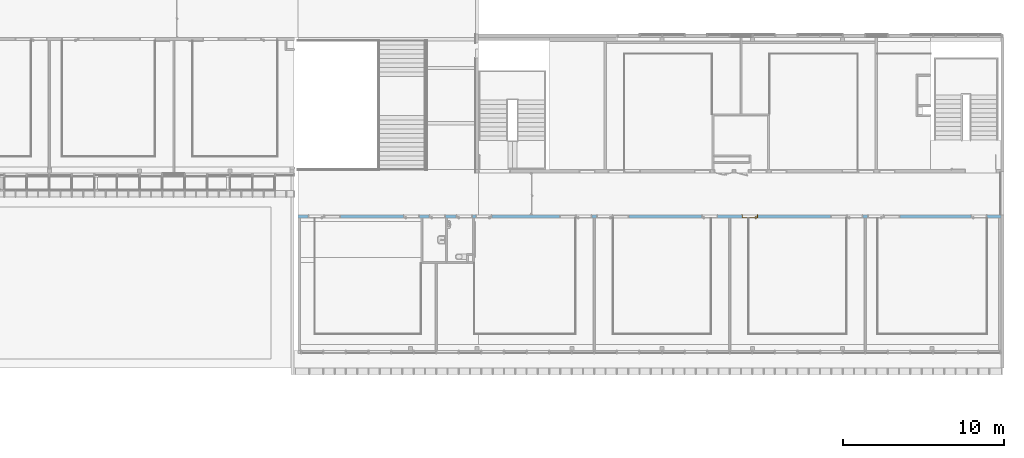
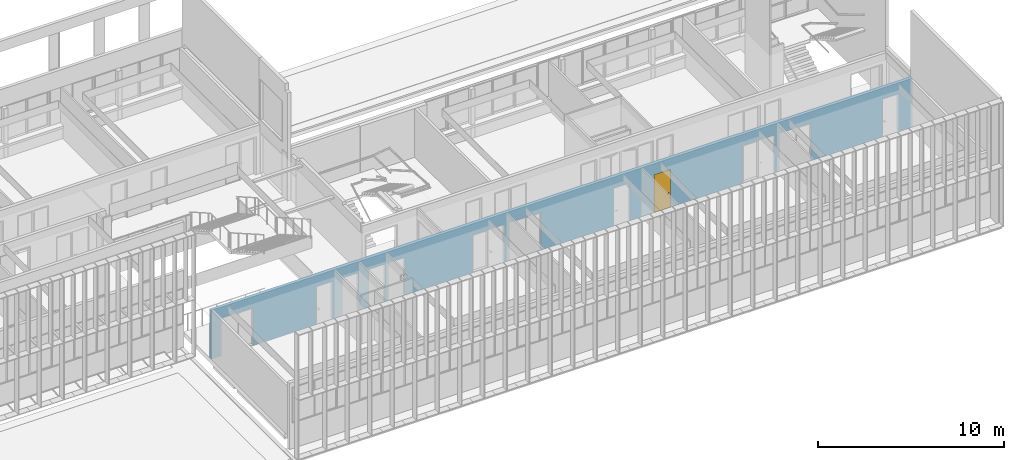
# One storey, part 69 of 106: 1 door, 18 openings, plus 1 element that does not belong to this part.
"""IFC2X3 building model written with IfcOpenShell, lengths in centimetres."""

from ifc_helpers import new_model, entity, si_unit, converted_unit, derived_unit, direction, frame, frame_2d, origin, place, context, subcontext, project, spatial, polyline, rectangle, extrude, clip, bounded_halfspace, faceted_brep, source, transform, mapped, material, material_list, layer, layer_set, layer_usage, type_object, type_shapes, element, fill, save


model = new_model("IFC2X3")

# Units and contexts
model_context = context("Model", 3, precision=0.001, world=origin(), true_north=direction((6.12303176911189e-17, 1.0)))
body_context = subcontext(model_context, "Body", "Model", "MODEL_VIEW")
ifc_project = project(units=[si_unit("LENGTHUNIT", "METRE", prefix="CENTI"), si_unit("AREAUNIT", "SQUARE_METRE"), si_unit("VOLUMEUNIT", "CUBIC_METRE"), converted_unit("PLANEANGLEUNIT", "DEGREE", entity("IfcRatioMeasure", 0.0174532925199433), si_unit("PLANEANGLEUNIT", "RADIAN"), dimensions=[0, 0, 0, 0, 0, 0, 0]), si_unit("MASSUNIT", "GRAM", prefix="KILO"), derived_unit("MASSDENSITYUNIT", [(si_unit("MASSUNIT", "GRAM", prefix="KILO"), 1), (si_unit("LENGTHUNIT", "METRE"), -3)]), si_unit("TIMEUNIT", "SECOND"), si_unit("FREQUENCYUNIT", "HERTZ"), si_unit("THERMODYNAMICTEMPERATUREUNIT", "DEGREE_CELSIUS"), derived_unit("THERMALTRANSMITTANCEUNIT", [(si_unit("MASSUNIT", "GRAM", prefix="KILO"), 1), (si_unit("THERMODYNAMICTEMPERATUREUNIT", "KELVIN"), -1), (si_unit("TIMEUNIT", "SECOND"), -3)]), derived_unit("VOLUMETRICFLOWRATEUNIT", [(si_unit("LENGTHUNIT", "METRE"), 3), (si_unit("TIMEUNIT", "SECOND"), -1)]), si_unit("ELECTRICCURRENTUNIT", "AMPERE"), si_unit("ELECTRICVOLTAGEUNIT", "VOLT"), si_unit("POWERUNIT", "WATT"), si_unit("FORCEUNIT", "NEWTON", prefix="KILO"), si_unit("ILLUMINANCEUNIT", "LUX"), si_unit("LUMINOUSFLUXUNIT", "LUMEN"), si_unit("LUMINOUSINTENSITYUNIT", "CANDELA"), derived_unit("USERDEFINED", [(si_unit("MASSUNIT", "GRAM", prefix="KILO"), -1), (si_unit("LENGTHUNIT", "METRE"), -2), (si_unit("TIMEUNIT", "SECOND"), 3), (si_unit("LUMINOUSFLUXUNIT", "LUMEN"), 1)]), derived_unit("LINEARVELOCITYUNIT", [(si_unit("LENGTHUNIT", "METRE"), 1), (si_unit("TIMEUNIT", "SECOND"), -1)]), si_unit("PRESSUREUNIT", "PASCAL"), derived_unit("USERDEFINED", [(si_unit("LENGTHUNIT", "METRE"), -2), (si_unit("MASSUNIT", "GRAM", prefix="KILO"), 1), (si_unit("TIMEUNIT", "SECOND"), -2)])], contexts=[model_context])

# Site, building, storey
site_placement = place(None, frame((-2781.94577612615, 7442.24238424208, 0.0)))
site = spatial("IfcSite", under=ifc_project, at=site_placement, Name="Default", CompositionType="ELEMENT")
building_placement = place(site_placement, origin())
building = spatial("IfcBuilding", under=site, at=building_placement, CompositionType="ELEMENT")
storey_placement = place(building_placement, frame((0.0, 0.0, 422.0)))
storey = spatial("IfcBuildingStorey", under=building, at=storey_placement, Name="Toiture - Cuisine", CompositionType="ELEMENT", Elevation=421.999999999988)

# Wall, openings, door
ifc_material_1 = material(Name="01 - Maçonnerie")
ifc_layer = layer(ifc_material_1, 20.0)
ifc_layer_set = layer_set([ifc_layer], Name="Mur de base:04 - Structure - béton - 20cm")
ifc_layer_usage = layer_usage(ifc_layer_set, "AXIS2", "NEGATIVE", 10.0)
wall_type = type_object("IfcWallType", Name="Mur de base:04 - Structure - béton - 20cm", PredefinedType="STANDARD", material=ifc_layer_set)
wall_placement = place(building_placement, frame((-4767.99987760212, -2200.15656731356, 422.0)))
wall = element("IfcWallStandardCase", 1, at=wall_placement, inside=storey, type_object=wall_type, material=ifc_layer_usage, Name="Mur de base:04 - Structure - béton - 20cm", ObjectType="Mur de base:04 - Structure - béton - 20cm", context=body_context, shape_type="Clipping", body=[
    clip(extrude(rectangle(XDim=4357.99999476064, YDim=19.9999999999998, at=frame_2d((2178.99999738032, -6.30606677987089e-14), x_axis=(-1.0, 0.0))), origin(), (0.0, 0.0, 1.0), 321.0), bounded_halfspace(frame((0.0, 10.0, 321.0), z_axis=(0.0, 0.0, -1.0), x_axis=(0.0, 1.0, 0.0)), True, frame((0.0, 10.0, 321.0)), polyline([(0.0, 0.0), (0.0, -20.0), (15.2999999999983, -20.0), (103.799999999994, -20.0), (105.799999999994, -20.0), (763.799999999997, -20.0), (773.799999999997, -20.0), (915.699994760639, -20.0), (925.699994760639, -20.0), (1082.69999476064, -20.0), (1092.69999476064, -20.0), (1720.69999476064, -20.0), (1722.69999476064, -20.0), (1832.69999476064, -20.0), (1842.69999476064, -20.0), (1952.69999476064, -20.0), (1954.69999476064, -20.0), (2560.69999476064, -20.0), (2562.69999476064, -20.0), (2672.69999476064, -20.0), (2682.69999476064, -20.0), (2792.69999476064, -20.0), (2794.69999476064, -20.0), (3400.69999476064, -20.0), (3402.69999476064, -20.0), (3512.69999476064, -20.0), (3522.69999476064, -20.0), (3592.69999476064, -20.0), (3594.69999476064, -20.0), (4270.69999476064, -20.0), (4272.69999476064, -20.0), (4342.69999476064, -20.0), (4358.0, -20.0), (4358.0, 0.0), (4356.0, 0.0), (1451.49999791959, 0.0), (1441.49999791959, 0.0), (1120.0, 0.0), (0.0, 0.0)]))),
])
opening_1_placement = place(wall_placement, origin())
element("IfcOpeningElement", 2, at=opening_1_placement, cuts=wall, Name="Mur de base:04 - Structure - béton - 20cm", ObjectType="Opening", context=body_context, shape_type="SweptSolid", body=[
    extrude(rectangle(XDim=270.0, YDim=20.0, at=frame_2d((0.0, 4.2632564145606e-14), x_axis=(0.0, 1.0))), frame((4368.0, 10.0, 135.0), z_axis=(0.0, 1.0, 0.0), x_axis=(1.0, 0.0, 0.0)), (0.0, 0.0, 1.0), 260.077533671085),
])
opening_2_placement = place(wall_placement, frame((4272.69999476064, 10.0, 0.0)))
element("IfcOpeningElement", 3, at=opening_2_placement, cuts=wall, Name="Int. Simple:PV (0.93m x 2.50m):1", ObjectType="Opening", context=body_context, shape_type="SweptSolid", body=[
    extrude(rectangle(XDim=248.500000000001, YDim=99.9999999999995, at=frame_2d((124.250000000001, 50.0), x_axis=(1.0, 0.0))), frame((0.0, 0.0, 0.0), z_axis=(0.0, -1.0, 0.0), x_axis=(0.0, 0.0, 1.0)), (0.0, 0.0, 1.0), 20.0),
])
opening_3_placement = place(wall_placement, frame((3632.69999476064, 10.0, 0.0)))
element("IfcOpeningElement", 4, at=opening_3_placement, cuts=wall, Name="Int. Simple:PV (0.93m x 2.50m):1", ObjectType="Opening", context=body_context, shape_type="SweptSolid", body=[
    extrude(rectangle(XDim=248.500000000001, YDim=99.9999999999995, at=frame_2d((124.250000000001, 49.9999999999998), x_axis=(1.0, 0.0))), frame((0.0, 0.0, 0.0), z_axis=(0.0, -1.0, 0.0), x_axis=(0.0, 0.0, 1.0)), (0.0, 0.0, 1.0), 20.0),
])
opening_4_placement = place(wall_placement, frame((3502.69999476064, 10.0, 0.0)))
element("IfcOpeningElement", 5, at=opening_4_placement, cuts=wall, Name="Int. Simple:PV (0.93m x 2.50m):1", ObjectType="Opening", context=body_context, shape_type="SweptSolid", body=[
    extrude(rectangle(XDim=248.500000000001, YDim=99.9999999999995, at=frame_2d((124.250000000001, 49.9999999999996), x_axis=(1.0, 0.0))), frame((0.0, 0.0, 0.0), z_axis=(0.0, -1.0, 0.0), x_axis=(0.0, 0.0, 1.0)), (0.0, 0.0, 1.0), 20.0),
])
opening_5_placement = place(wall_placement, frame((2852.69999476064, 10.0, 0.0)))
opening_5 = element("IfcOpeningElement", 6, at=opening_5_placement, cuts=wall, Name="Int. Simple:PV (0.93m x 2.50m):1", ObjectType="Opening", context=body_context, shape_type="SweptSolid", body=[
    extrude(rectangle(XDim=248.500000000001, YDim=99.9999999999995, at=frame_2d((124.250000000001, 49.9999999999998), x_axis=(1.0, 0.0))), frame((0.0, 0.0, 0.0), z_axis=(0.0, -1.0, 0.0), x_axis=(0.0, 0.0, 1.0)), (0.0, 0.0, 1.0), 20.0),
])
opening_6_placement = place(wall_placement, frame((2602.69999476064, 10.0, 0.0)))
element("IfcOpeningElement", 7, at=opening_6_placement, cuts=wall, Name="Int. Simple:PV (0.93m x 2.50m):1", ObjectType="Opening", context=body_context, shape_type="SweptSolid", body=[
    extrude(rectangle(XDim=248.500000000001, YDim=99.9999999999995, at=frame_2d((124.250000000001, 49.9999999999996), x_axis=(1.0, 0.0))), frame((0.0, 0.0, 0.0), z_axis=(0.0, -1.0, 0.0), x_axis=(0.0, 0.0, 1.0)), (0.0, 0.0, 1.0), 20.0),
])
opening_7_placement = place(wall_placement, frame((1952.69999476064, 10.0, 0.0)))
element("IfcOpeningElement", 8, at=opening_7_placement, cuts=wall, Name="Int. Simple:PV (0.93m x 2.50m):1", ObjectType="Opening", context=body_context, shape_type="SweptSolid", body=[
    extrude(rectangle(XDim=248.500000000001, YDim=99.9999999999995, at=frame_2d((124.250000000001, 49.9999999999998), x_axis=(1.0, 0.0))), frame((0.0, 0.0, 0.0), z_axis=(0.0, -1.0, 0.0), x_axis=(0.0, 0.0, 1.0)), (0.0, 0.0, 1.0), 20.0),
])
opening_8_placement = place(wall_placement, frame((1822.69999476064, 10.0, 0.0)))
element("IfcOpeningElement", 9, at=opening_8_placement, cuts=wall, Name="Int. Simple:PV (0.93m x 2.50m):1", ObjectType="Opening", context=body_context, shape_type="SweptSolid", body=[
    extrude(rectangle(XDim=248.500000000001, YDim=99.9999999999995, at=frame_2d((124.250000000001, 49.9999999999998), x_axis=(1.0, 0.0))), frame((0.0, 0.0, 0.0), z_axis=(0.0, -1.0, 0.0), x_axis=(0.0, 0.0, 1.0)), (0.0, 0.0, 1.0), 20.0),
])
opening_9_placement = place(wall_placement, frame((1202.69999476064, 10.0, 0.0)))
element("IfcOpeningElement", 10, at=opening_9_placement, cuts=wall, Name="Int. Simple:PV (0.93m x 2.50m):1", ObjectType="Opening", context=body_context, shape_type="SweptSolid", body=[
    extrude(rectangle(XDim=248.500000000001, YDim=99.9999999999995, at=frame_2d((124.250000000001, 49.9999999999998), x_axis=(1.0, 0.0))), frame((0.0, 0.0, 0.0), z_axis=(0.0, -1.0, 0.0), x_axis=(0.0, 0.0, 1.0)), (0.0, 0.0, 1.0), 20.0),
])
opening_10_placement = place(wall_placement, frame((1081.19999476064, 10.0, 0.0)))
element("IfcOpeningElement", 11, at=opening_10_placement, cuts=wall, Name="Int. Simple:PP simple (0.93m x 2.50m):1", ObjectType="Opening", context=body_context, shape_type="SweptSolid", body=[
    extrude(rectangle(XDim=248.500000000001, YDim=99.9999999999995, at=frame_2d((124.250000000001, 49.9999999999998), x_axis=(1.0, 0.0))), frame((0.0, 0.0, 0.0), z_axis=(0.0, -1.0, 0.0), x_axis=(0.0, 0.0, 1.0)), (0.0, 0.0, 1.0), 20.0),
])
opening_11_placement = place(wall_placement, frame((753.799999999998, 10.0, 0.0)))
element("IfcOpeningElement", 12, at=opening_11_placement, cuts=wall, Name="Int. Simple:PV (0.93m x 2.50m):1", ObjectType="Opening", context=body_context, shape_type="SweptSolid", body=[
    extrude(rectangle(XDim=248.500000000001, YDim=99.9999999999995, at=frame_2d((124.250000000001, 50.0), x_axis=(1.0, 0.0))), frame((0.0, 0.0, 0.0), z_axis=(0.0, -1.0, 0.0), x_axis=(0.0, 0.0, 1.0)), (0.0, 0.0, 1.0), 20.0),
])
opening_12_placement = place(wall_placement, frame((163.799999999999, 10.0, 0.0)))
element("IfcOpeningElement", 13, at=opening_12_placement, cuts=wall, Name="Int. Simple:PV (0.93m x 2.50m):1", ObjectType="Opening", context=body_context, shape_type="SweptSolid", body=[
    extrude(rectangle(XDim=248.500000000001, YDim=99.9999999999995, at=frame_2d((124.250000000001, 49.9999999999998), x_axis=(1.0, 0.0))), frame((0.0, 0.0, 0.0), z_axis=(0.0, -1.0, 0.0), x_axis=(0.0, 0.0, 1.0)), (0.0, 0.0, 1.0), 20.0),
])
opening_13_placement = place(wall_placement, frame((263.799999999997, 10.0, 0.0)))
element("IfcOpeningElement", 14, at=opening_13_placement, cuts=wall, Name="châssis intérieur vitré:châssis intérieur vitré (h=270) R+1:1", ObjectType="Opening", context=body_context, shape_type="SweptSolid", body=[
    extrude(rectangle(XDim=250.0, YDim=99.9999999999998, at=frame_2d((125.0, 49.9999999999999), x_axis=(1.0, 0.0))), frame((0.0, 0.0, 0.0), z_axis=(0.0, -1.0, 0.0), x_axis=(0.0, 0.0, 1.0)), (0.0, 0.0, 1.0), 20.0),
])
opening_14_placement = place(wall_placement, frame((1722.69999476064, 10.0, 0.0)))
element("IfcOpeningElement", 15, at=opening_14_placement, cuts=wall, Name="châssis intérieur vitré:châssis intérieur vitré (h=270) R+1:1", ObjectType="Opening", context=body_context, shape_type="SweptSolid", body=[
    extrude(rectangle(XDim=250.0, YDim=99.9999999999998, at=frame_2d((125.0, 49.9999999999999), x_axis=(1.0, 0.0))), frame((0.0, 0.0, 0.0), z_axis=(0.0, -1.0, 0.0), x_axis=(0.0, 0.0, 1.0)), (0.0, 0.0, 1.0), 20.0),
])
opening_15_placement = place(wall_placement, frame((2052.69999476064, 10.0, 0.0)))
element("IfcOpeningElement", 16, at=opening_15_placement, cuts=wall, Name="châssis intérieur vitré:châssis intérieur vitré (h=270) R+1:1", ObjectType="Opening", context=body_context, shape_type="SweptSolid", body=[
    extrude(rectangle(XDim=250.0, YDim=99.9999999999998, at=frame_2d((125.0, 49.9999999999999), x_axis=(1.0, 0.0))), frame((0.0, 0.0, 0.0), z_axis=(0.0, -1.0, 0.0), x_axis=(0.0, 0.0, 1.0)), (0.0, 0.0, 1.0), 20.0),
])
opening_16_placement = place(wall_placement, frame((3402.69999476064, 10.0, 0.0)))
element("IfcOpeningElement", 17, at=opening_16_placement, cuts=wall, Name="châssis intérieur vitré:châssis intérieur vitré (h=270) R+1:1", ObjectType="Opening", context=body_context, shape_type="SweptSolid", body=[
    extrude(rectangle(XDim=250.0, YDim=99.9999999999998, at=frame_2d((125.0, 49.9999999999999), x_axis=(1.0, 0.0))), frame((0.0, 0.0, 0.0), z_axis=(0.0, -1.0, 0.0), x_axis=(0.0, 0.0, 1.0)), (0.0, 0.0, 1.0), 20.0),
])
opening_17_placement = place(wall_placement, frame((3732.69999476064, 10.0, 0.0)))
element("IfcOpeningElement", 18, at=opening_17_placement, cuts=wall, Name="châssis intérieur vitré:châssis intérieur vitré (h=270) R+1:1", ObjectType="Opening", context=body_context, shape_type="SweptSolid", body=[
    extrude(rectangle(XDim=250.0, YDim=99.9999999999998, at=frame_2d((125.0, 49.9999999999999), x_axis=(1.0, 0.0))), frame((0.0, 0.0, 0.0), z_axis=(0.0, -1.0, 0.0), x_axis=(0.0, 0.0, 1.0)), (0.0, 0.0, 1.0), 20.0),
])
opening_18_placement = place(wall_placement, frame((914.199994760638, 10.0, 0.0)))
element("IfcOpeningElement", 19, at=opening_18_placement, cuts=wall, Name="Int. Simple:PP simple (0.93m x 2.50m):1", ObjectType="Opening", context=body_context, shape_type="SweptSolid", body=[
    extrude(rectangle(XDim=248.500000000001, YDim=99.9999999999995, at=frame_2d((124.250000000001, 50.0), x_axis=(1.0, 0.0))), frame((0.0, 0.0, 0.0), z_axis=(0.0, -1.0, 0.0), x_axis=(0.0, 0.0, 1.0)), (0.0, 0.0, 1.0), 20.0),
])
ifc_material_2 = material(Name="Finition Peinture - Blanc satiné")
ifc_material_3 = material(Name="Bois - Panneau de porte")
ifc_material_4 = material(Name="Bois - Cadre de porte")
ifc_material_list_1 = material_list([ifc_material_2, ifc_material_3, ifc_material_4])
ifc_material_list_2 = material_list([ifc_material_2, ifc_material_3, ifc_material_4])
door_style = type_object("IfcDoorStyle", Name="PV (0.93m x 2.50m)", ConstructionType="NOTDEFINED", OperationType="SINGLE_SWING_RIGHT", ParameterTakesPrecedence=False, Sizeable=False, material=ifc_material_list_2)
shared_shape = source(origin(), body_context, "Body", "Brep", [
    faceted_brep([(99.5000000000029, -0.500000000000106, 87.0), (99.5000000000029, -0.500000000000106, 108.0), (98.535276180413, -0.500000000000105, 108.399601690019), (97.5000000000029, -0.500000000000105, 108.535898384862), (96.4647238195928, -0.500000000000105, 108.399601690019), (95.500000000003, -0.500000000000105, 108.0), (95.5000000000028, -0.500000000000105, 87.0), (96.4647238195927, -0.500000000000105, 86.6003983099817), (97.5000000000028, -0.500000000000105, 86.464101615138), (98.5352761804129, -0.500000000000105, 86.6003983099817), (99.5000000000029, 0.0, 108.0), (99.5000000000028, 0.0, 87.0), (98.5352761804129, 0.0, 86.6003983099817), (97.5000000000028, 0.0, 86.464101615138), (96.4647238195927, 0.0, 86.6003983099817), (95.5000000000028, 0.0, 87.0), (95.5000000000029, 0.0, 108.0), (96.4647238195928, 0.0, 108.399601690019), (97.5000000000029, 0.0, 108.535898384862), (98.535276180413, 0.0, 108.399601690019)], [[[0, 1, 2, 3, 4, 5, 6, 7, 8, 9]], [[10, 11, 12, 13, 14, 15, 16, 17, 18, 19]], [[9, 12, 11, 0]], [[8, 13, 12, 9]], [[7, 14, 13, 8]], [[7, 6, 15, 14]], [[15, 6, 5, 16]], [[4, 17, 16, 5]], [[3, 18, 17, 4]], [[2, 19, 18, 3]], [[2, 1, 10, 19]], [[11, 10, 1, 0]]]),
    faceted_brep([(99.5000000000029, 4.0, 87.0), (99.5000000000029, 4.0, 108.0), (98.535276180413, 4.0, 108.399601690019), (97.5000000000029, 4.0, 108.535898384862), (96.4647238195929, 4.0, 108.399601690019), (95.500000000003, 4.0, 108.0), (95.5000000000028, 4.0, 87.0), (96.4647238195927, 4.0, 86.6003983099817), (97.5000000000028, 4.0, 86.464101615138), (98.5352761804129, 4.0, 86.6003983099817), (97.5000000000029, 4.49999999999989, 108.535898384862), (98.535276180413, 4.49999999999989, 108.399601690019), (99.5000000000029, 4.49999999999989, 108.0), (99.5000000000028, 4.49999999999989, 87.0), (98.5352761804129, 4.49999999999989, 86.6003983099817), (97.5000000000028, 4.49999999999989, 86.464101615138), (96.4647238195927, 4.49999999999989, 86.6003983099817), (95.5000000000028, 4.49999999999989, 87.0), (95.500000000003, 4.49999999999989, 108.0), (96.4647238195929, 4.49999999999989, 108.399601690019)], [[[0, 1, 2, 3, 4, 5, 6, 7, 8, 9]], [[10, 11, 12, 13, 14, 15, 16, 17, 18, 19]], [[4, 19, 18, 5]], [[3, 10, 19, 4]], [[2, 11, 10, 3]], [[2, 1, 12, 11]], [[13, 12, 1, 0]], [[9, 14, 13, 0]], [[8, 15, 14, 9]], [[7, 16, 15, 8]], [[7, 6, 17, 16]], [[17, 6, 5, 18]]]),
    faceted_brep([(97.2974701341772, -0.500000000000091, 100.778044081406), (97.7025298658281, -0.500000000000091, 100.778044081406), (98.1000000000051, -0.500000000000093, 100.699999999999), (98.100000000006, -0.500000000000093, 99.2999999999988), (97.7025298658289, -0.500000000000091, 99.221955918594), (97.297470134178, -0.500000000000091, 99.2219559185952), (96.9000000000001, -0.500000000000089, 99.3000000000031), (96.9000000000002, -0.500000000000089, 100.7), (97.7025298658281, -3.10045754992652, 100.778044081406), (98.1000000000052, -3.26509507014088, 100.7), (97.2974701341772, -2.93267631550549, 100.778044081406), (95.9298602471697, -4.30028620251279, 100.778044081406), (96.0976414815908, -4.70534593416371, 100.778044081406), (96.9000000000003, -2.76803879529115, 100.7), (96.9000000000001, -2.76803879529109, 99.3000000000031), (97.297470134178, -2.93267631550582, 99.2219559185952), (97.7025298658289, -3.10045754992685, 99.221955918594), (96.0976414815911, -4.70534593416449, 99.221955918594), (95.9298602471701, -4.30028620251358, 99.2219559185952), (98.100000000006, -3.26509507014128, 99.2999999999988), (96.2622790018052, -5.1028160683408, 100.7), (95.7652227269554, -3.90281606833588, 100.7), (95.7652227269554, -3.90281606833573, 99.3000000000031), (96.2622790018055, -5.10281606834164, 99.2999999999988), (87.4981359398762, -5.10281606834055, 100.7), (87.4981359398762, -4.70534593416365, 100.778044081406), (87.4981359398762, -4.30028620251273, 100.778044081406), (87.4981359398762, -3.90281606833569, 100.699999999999), (87.4981359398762, -3.90281606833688, 99.3000000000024), (87.4981359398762, -4.30028620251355, 99.2219559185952), (87.4981359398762, -4.70534593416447, 99.221955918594), (87.4981359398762, -5.10281606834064, 99.2999999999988), (91.7139980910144, -4.5028160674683, 100.78786867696), (92.2692302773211, -5.1028160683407, 100.7), (91.6316793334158, -3.9028160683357, 100.7), (91.631679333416, -3.90281606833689, 99.3000000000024), (91.7139981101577, -4.50281607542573, 99.2121313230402), (92.2692310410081, -5.10281606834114, 99.2999999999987)], [[[0, 1, 2, 3, 4, 5, 6, 7]], [[2, 1, 8, 9]], [[1, 0, 10, 11, 12, 8]], [[0, 7, 13, 10]], [[14, 13, 7, 6]], [[5, 15, 14, 6]], [[5, 4, 16, 17, 18, 15]], [[3, 19, 16, 4]], [[9, 19, 3, 2]], [[9, 8, 12, 20]], [[10, 13, 21, 11]], [[22, 21, 13, 14]], [[14, 15, 18, 22]], [[16, 19, 23, 17]], [[20, 23, 19, 9]], [[24, 25, 26, 27, 28, 29, 30, 31]], [[32, 25, 33]], [[33, 25, 24]], [[33, 20, 12]], [[11, 34, 32]], [[34, 11, 21]], [[27, 26, 34]], [[32, 26, 25]], [[32, 34, 26]], [[32, 33, 12]], [[11, 32, 12]], [[21, 22, 35, 28, 27, 34]], [[36, 29, 35]], [[30, 36, 37]], [[18, 35, 22]], [[29, 28, 35]], [[30, 37, 31]], [[37, 17, 23]], [[36, 17, 37]], [[36, 18, 17]], [[36, 35, 18]], [[29, 36, 30]], [[23, 20, 33, 24, 31, 37]]]),
    faceted_brep([(97.2974701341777, 4.49999999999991, 99.2219559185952), (97.7025298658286, 4.49999999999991, 99.221955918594), (98.1000000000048, 4.4999999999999, 99.2999999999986), (98.1000000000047, 4.4999999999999, 100.7), (97.7025298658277, 4.49999999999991, 100.778044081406), (97.2974701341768, 4.49999999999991, 100.778044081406), (96.8999999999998, 4.49999999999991, 100.7), (96.900000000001, 4.49999999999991, 99.3000000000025), (96.8999999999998, 6.7485204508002, 100.7), (96.8999999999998, 6.74852045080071, 99.3000000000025), (97.2974701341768, 6.91315797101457, 100.778044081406), (97.7025298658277, 7.0809392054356, 100.778044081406), (96.0838906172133, 8.69957845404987, 100.778044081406), (95.9161093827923, 8.29451872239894, 100.778044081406), (98.1000000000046, 7.24557672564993, 100.7), (98.1000000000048, 7.24557672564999, 99.2999999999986), (97.7025298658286, 7.08093920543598, 99.221955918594), (97.2974701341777, 6.91315797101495, 99.2219559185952), (95.9161093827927, 8.29451872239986, 99.2219559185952), (96.0838906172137, 8.69957845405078, 99.221955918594), (95.751471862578, 7.89704858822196, 100.7), (95.7514718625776, 7.89704858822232, 99.3000000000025), (96.2485281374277, 9.09704858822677, 100.7), (96.2485281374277, 9.09704858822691, 99.2999999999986), (87.4954216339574, 8.29451872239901, 100.778044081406), (87.4954216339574, 8.69957845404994, 100.778044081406), (87.4954216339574, 9.09704858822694, 100.7), (87.4954216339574, 9.09704858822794, 99.2999999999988), (87.4954216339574, 8.6995784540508, 99.221955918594), (87.4954216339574, 8.29451872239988, 99.2219559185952), (87.4954216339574, 7.89704858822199, 99.3000000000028), (87.4954216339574, 7.89704858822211, 100.7), (91.6234467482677, 7.89704858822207, 100.7), (91.6234479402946, 7.89704858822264, 99.3000000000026), (91.7057655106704, 8.49704858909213, 100.78786867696), (92.255479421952, 9.09704858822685, 100.7), (92.2554795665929, 9.09704858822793, 99.2999999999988), (91.7057654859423, 8.49704858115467, 99.2121313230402)], [[[0, 1, 2, 3, 4, 5, 6, 7]], [[8, 9, 7, 6]], [[5, 10, 8, 6]], [[5, 4, 11, 12, 13, 10]], [[3, 14, 11, 4]], [[14, 3, 2, 15]], [[2, 1, 16, 15]], [[1, 0, 17, 18, 19, 16]], [[0, 7, 9, 17]], [[20, 21, 9, 8]], [[8, 10, 13, 20]], [[14, 22, 12, 11]], [[23, 22, 14, 15]], [[15, 16, 19, 23]], [[17, 9, 21, 18]], [[24, 25, 26, 27, 28, 29, 30, 31]], [[21, 20, 32, 31, 30, 33]], [[34, 24, 32]], [[25, 34, 35]], [[13, 32, 20]], [[24, 31, 32]], [[25, 35, 26]], [[35, 12, 22]], [[34, 12, 35]], [[34, 13, 12]], [[34, 32, 13]], [[24, 34, 25]], [[22, 23, 36, 27, 26, 35]], [[37, 28, 36]], [[36, 28, 27]], [[36, 23, 19]], [[18, 33, 37]], [[33, 18, 21]], [[30, 29, 33]], [[37, 29, 28]], [[37, 33, 29]], [[37, 36, 19]], [[18, 37, 19]]]),
    faceted_brep([(103.500000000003, 4.0, 245.0), (103.500000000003, 4.0, 0.0), (10.5000000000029, 4.0, 0.0), (10.5000000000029, 4.0, 245.0), (103.500000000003, 0.0, 245.0), (10.5000000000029, 0.0, 245.0), (10.5000000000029, 0.0, 0.0), (103.500000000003, 0.0, 0.0)], [[[0, 1, 2, 3]], [[4, 5, 6, 7]], [[3, 5, 4, 0]], [[2, 6, 5, 3]], [[1, 7, 6, 2]], [[0, 4, 7, 1]]]),
    faceted_brep([(107.0, 20.0, 0.0), (107.0, 0.0, 0.0), (108.500000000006, 0.0, 0.0), (108.500000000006, -0.500000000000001, 0.0), (103.500000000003, -0.500000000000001, 0.0), (103.500000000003, 4.0, 0.0), (102.0, 4.0, 0.0), (102.0, 20.5000000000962, 0.0), (108.500000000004, 20.5000000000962, 0.0), (108.500000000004, 20.0, 0.0), (108.500000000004, 20.0, 250.0), (5.50000000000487, 20.0, 250.0), (5.50000000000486, 20.0, 0.0), (7.0, 20.0, 0.0), (7.0, 20.0, 248.500000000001), (107.0, 20.0, 248.500000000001), (108.500000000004, 20.5000000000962, 250.0), (102.0, 20.5000000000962, 243.5), (12.0, 20.5000000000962, 243.5), (12.0, 20.5000000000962, 0.0), (5.50000000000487, 20.5000000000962, 0.0), (5.50000000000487, 20.5000000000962, 250.0), (102.0, 4.0, 243.5), (103.500000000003, 4.0, 245.0), (10.5000000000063, 4.0, 245.0), (10.5000000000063, 4.0, 0.0), (12.0, 4.0, 0.0), (12.0, 4.0, 243.5), (103.500000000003, -0.500000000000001, 245.0), (108.500000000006, -0.500000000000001, 250.0), (5.5000000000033, -0.500000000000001, 250.0), (5.50000000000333, -0.500000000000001, 0.0), (10.5000000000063, -0.500000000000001, 0.0), (10.5000000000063, -0.500000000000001, 245.0), (108.500000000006, 0.0, 250.0), (107.0, 0.0, 248.500000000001), (7.0, 0.0, 248.500000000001), (7.0, 0.0, 0.0), (5.5000000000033, 0.0, 0.0), (5.50000000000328, 0.0, 250.0)], [[[0, 1, 2, 3, 4, 5, 6, 7, 8, 9]], [[9, 10, 11, 12, 13, 14, 15, 0]], [[8, 16, 10, 9]], [[7, 17, 18, 19, 20, 21, 16, 8]], [[7, 6, 22, 17]], [[5, 23, 24, 25, 26, 27, 22, 6]], [[5, 4, 28, 23]], [[3, 29, 30, 31, 32, 33, 28, 4]], [[2, 34, 29, 3]], [[1, 35, 36, 37, 38, 39, 34, 2]], [[0, 15, 35, 1]], [[14, 13, 37, 36]], [[13, 12, 20, 19, 26, 25, 32, 31, 38, 37]], [[21, 20, 12, 11]], [[27, 26, 19, 18]], [[33, 32, 25, 24]], [[39, 38, 31, 30]], [[16, 21, 11, 10]], [[22, 27, 18, 17]], [[28, 33, 24, 23]], [[34, 39, 30, 29]], [[15, 14, 36, 35]]]),
])
type_shapes(door_style, [shared_shape])
door_placement = place(opening_5_placement, frame((-107.0, -20.0, 0.0)))
door = element("IfcDoor", 20, at=door_placement, inside=storey, type_object=door_style, material=ifc_material_list_1, Name="Int. Simple:PV (0.93m x 2.50m)", ObjectType="Int. Simple:PV (0.93m x 2.50m)", OverallHeight=248.500000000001, OverallWidth=99.9999999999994, context=body_context, shape_type="MappedRepresentation", body=[
    mapped(shared_shape, transform((0.0, 0.0, 0.0), scale=1.0)),
])
fill(opening_5, door)

save(model, "model.ifc")
